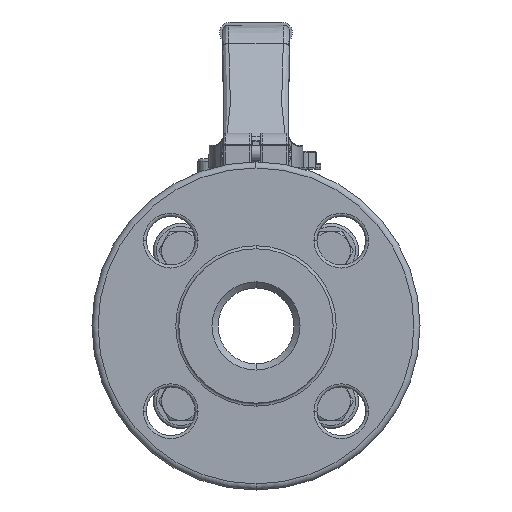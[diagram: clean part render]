
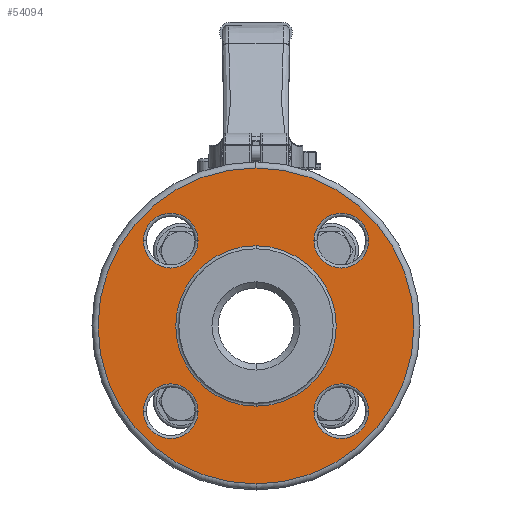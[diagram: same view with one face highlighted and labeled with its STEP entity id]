
A CAD part, left-side view. The second image highlights one B-rep face of the part: STEP entity #54094.
In plain terms, the highlighted planar face has unit normal (-1, 0, 0).
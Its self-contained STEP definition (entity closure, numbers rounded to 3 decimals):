
#55=CARTESIAN_POINT('',(-45.35,0.,0.));
#56=DIRECTION('',(-1.,0.,0.));
#57=DIRECTION('',(0.,0.,1.));
#58=AXIS2_PLACEMENT_3D('',#55,#56,#57);
#75=CARTESIAN_POINT('',(-45.35,0.,0.));
#76=DIRECTION('',(1.,0.,0.));
#77=DIRECTION('',(0.,0.,-1.));
#78=AXIS2_PLACEMENT_3D('',#75,#76,#77);
#98=CARTESIAN_POINT('',(-45.35,0.,0.));
#99=DIRECTION('',(1.,0.,0.));
#100=DIRECTION('',(0.,0.,1.));
#101=AXIS2_PLACEMENT_3D('',#98,#99,#100);
#44452=CARTESIAN_POINT('',(-45.35,28.072,28.072));
#44453=DIRECTION('',(1.,0.,0.));
#44454=DIRECTION('',(0.,1.,0.));
#44455=AXIS2_PLACEMENT_3D('',#44452,#44453,#44454);
#44467=CARTESIAN_POINT('',(-45.35,28.072,28.072));
#44468=DIRECTION('',(1.,0.,0.));
#44469=DIRECTION('',(0.,-1.,0.));
#44470=AXIS2_PLACEMENT_3D('',#44467,#44468,#44469);
#44520=CARTESIAN_POINT('',(-45.35,-28.072,28.072));
#44521=DIRECTION('',(1.,0.,0.));
#44522=DIRECTION('',(0.,-1.,0.));
#44523=AXIS2_PLACEMENT_3D('',#44520,#44521,#44522);
#44535=CARTESIAN_POINT('',(-45.35,-28.072,28.072));
#44536=DIRECTION('',(1.,0.,0.));
#44537=DIRECTION('',(0.,1.,0.));
#44538=AXIS2_PLACEMENT_3D('',#44535,#44536,#44537);
#44588=CARTESIAN_POINT('',(-45.35,-28.072,-28.072));
#44589=DIRECTION('',(1.,0.,0.));
#44590=DIRECTION('',(0.,1.,0.));
#44591=AXIS2_PLACEMENT_3D('',#44588,#44589,#44590);
#44603=CARTESIAN_POINT('',(-45.35,-28.072,-28.072));
#44604=DIRECTION('',(1.,0.,0.));
#44605=DIRECTION('',(0.,-1.,0.));
#44606=AXIS2_PLACEMENT_3D('',#44603,#44604,#44605);
#44656=CARTESIAN_POINT('',(-45.35,28.072,-28.072));
#44657=DIRECTION('',(1.,0.,0.));
#44658=DIRECTION('',(0.,-1.,0.));
#44659=AXIS2_PLACEMENT_3D('',#44656,#44657,#44658);
#44671=CARTESIAN_POINT('',(-45.35,28.072,-28.072));
#44672=DIRECTION('',(1.,0.,0.));
#44673=DIRECTION('',(0.,1.,0.));
#44674=AXIS2_PLACEMENT_3D('',#44671,#44672,#44673);
#44690=CARTESIAN_POINT('',(-45.35,0.,0.));
#44691=DIRECTION('',(-1.,0.,0.));
#44692=DIRECTION('',(0.,0.,-1.));
#44693=AXIS2_PLACEMENT_3D('',#44690,#44691,#44692);
#44721=CARTESIAN_POINT('',(-45.35,0.,-52.));
#44722=CARTESIAN_POINT('',(-45.35,0.,52.));
#44723=VERTEX_POINT('',#44721);
#44724=VERTEX_POINT('',#44722);
#45641=CARTESIAN_POINT('',(-45.35,37.072,28.072));
#45642=CARTESIAN_POINT('',(-45.35,19.072,28.072));
#45643=VERTEX_POINT('',#45641);
#45644=VERTEX_POINT('',#45642);
#45657=CARTESIAN_POINT('',(-45.35,-37.072,28.072));
#45658=CARTESIAN_POINT('',(-45.35,-19.072,28.072));
#45659=VERTEX_POINT('',#45657);
#45660=VERTEX_POINT('',#45658);
#45673=CARTESIAN_POINT('',(-45.35,-19.072,-28.072));
#45674=CARTESIAN_POINT('',(-45.35,-37.072,-28.072));
#45675=VERTEX_POINT('',#45673);
#45676=VERTEX_POINT('',#45674);
#45689=CARTESIAN_POINT('',(-45.35,37.072,-28.072));
#45690=CARTESIAN_POINT('',(-45.35,19.072,-28.072));
#45691=VERTEX_POINT('',#45689);
#45692=VERTEX_POINT('',#45690);
#46309=CARTESIAN_POINT('',(-45.35,0.,26.4));
#46310=CARTESIAN_POINT('',(-45.35,0.,-26.4));
#46311=VERTEX_POINT('',#46309);
#46312=VERTEX_POINT('',#46310);
#54054=CARTESIAN_POINT('',(-45.35,0.,0.));
#54055=DIRECTION('',(-1.,0.,0.));
#54056=DIRECTION('',(0.,0.,1.));
#54057=AXIS2_PLACEMENT_3D('',#54054,#54055,#54056);
#54058=PLANE('',#54057);
#54060=ORIENTED_EDGE('',*,*,#54059,.T.);
#54062=ORIENTED_EDGE('',*,*,#54061,.T.);
#54063=EDGE_LOOP('',(#54060,#54062));
#54064=FACE_OUTER_BOUND('',#54063,.F.);
#54065=ORIENTED_EDGE('',*,*,#54044,.T.);
#54067=ORIENTED_EDGE('',*,*,#54066,.T.);
#54068=EDGE_LOOP('',(#54065,#54067));
#54069=FACE_BOUND('',#54068,.F.);
#54071=ORIENTED_EDGE('',*,*,#54070,.F.);
#54073=ORIENTED_EDGE('',*,*,#54072,.F.);
#54074=EDGE_LOOP('',(#54071,#54073));
#54075=FACE_BOUND('',#54074,.F.);
#54077=ORIENTED_EDGE('',*,*,#54076,.F.);
#54079=ORIENTED_EDGE('',*,*,#54078,.F.);
#54080=EDGE_LOOP('',(#54077,#54079));
#54081=FACE_BOUND('',#54080,.F.);
#54083=ORIENTED_EDGE('',*,*,#54082,.F.);
#54085=ORIENTED_EDGE('',*,*,#54084,.F.);
#54086=EDGE_LOOP('',(#54083,#54085));
#54087=FACE_BOUND('',#54086,.F.);
#54089=ORIENTED_EDGE('',*,*,#54088,.F.);
#54091=ORIENTED_EDGE('',*,*,#54090,.F.);
#54092=EDGE_LOOP('',(#54089,#54091));
#54093=FACE_BOUND('',#54092,.F.);
#54094=ADVANCED_FACE('',(#54064,#54069,#54075,#54081,#54087,#54093),#54058,.T.);
#59=CIRCLE('',#58,26.4);
#79=CIRCLE('',#78,52.);
#102=CIRCLE('',#101,52.);
#44456=CIRCLE('',#44455,9.);
#44471=CIRCLE('',#44470,9.);
#44524=CIRCLE('',#44523,9.);
#44539=CIRCLE('',#44538,9.);
#44592=CIRCLE('',#44591,9.);
#44607=CIRCLE('',#44606,9.);
#44660=CIRCLE('',#44659,9.);
#44675=CIRCLE('',#44674,9.);
#44694=CIRCLE('',#44693,26.4);
#54044=EDGE_CURVE('',#46311,#46312,#59,.T.);
#54059=EDGE_CURVE('',#44723,#44724,#79,.T.);
#54061=EDGE_CURVE('',#44724,#44723,#102,.T.);
#54066=EDGE_CURVE('',#46312,#46311,#44694,.T.);
#54070=EDGE_CURVE('',#45643,#45644,#44456,.T.);
#54072=EDGE_CURVE('',#45644,#45643,#44471,.T.);
#54076=EDGE_CURVE('',#45659,#45660,#44524,.T.);
#54078=EDGE_CURVE('',#45660,#45659,#44539,.T.);
#54082=EDGE_CURVE('',#45675,#45676,#44592,.T.);
#54084=EDGE_CURVE('',#45676,#45675,#44607,.T.);
#54088=EDGE_CURVE('',#45691,#45692,#44675,.T.);
#54090=EDGE_CURVE('',#45692,#45691,#44660,.T.);
